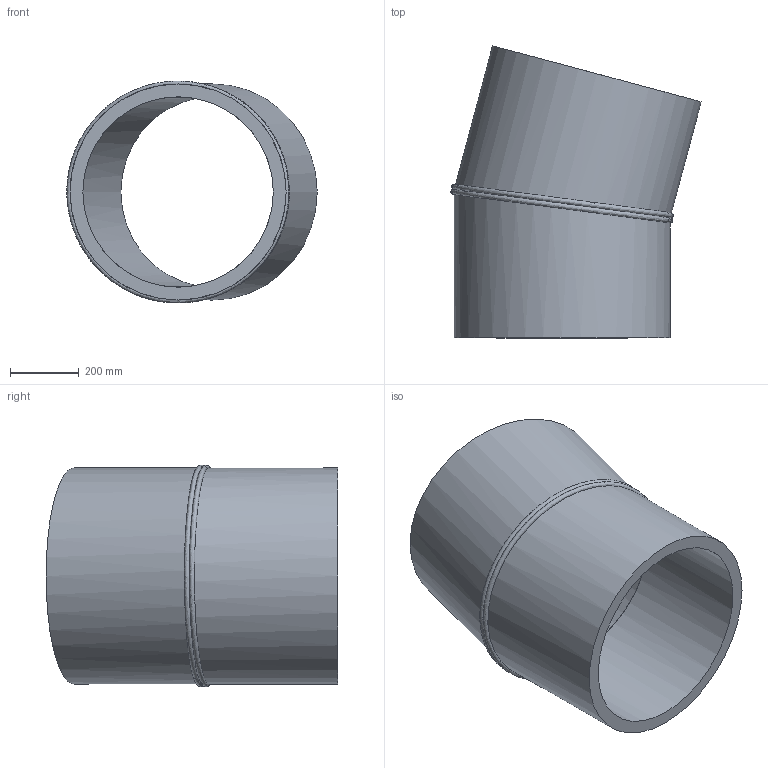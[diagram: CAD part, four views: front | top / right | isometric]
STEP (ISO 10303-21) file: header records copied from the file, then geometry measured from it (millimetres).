
FILE_DESCRIPTION(/* description */ ('Unknown'),/* implementation_level */ '2;1');
FILE_NAME(/* name */ 'Curva 15° a settore DE630 SDR17',/* time_stamp */ '2022-07-22T17:09:15+02:00',/* author */ ('Unknown'),/* organization */ ('Unknown'),/* preprocessor_version */ 'ST-DEVELOPER v18.102',/* originating_system */ 'Solid Edge',/* authorisation */ 'Unknown');
FILE_SCHEMA (('AUTOMOTIVE_DESIGN {1 0 10303 214 3 1 1}'));
Length unit declared in the file: millimetre
Products named in the file (2): Curva 15° a settore DE630 SDR17; Tubo x Gomito 15° DE630 SDR17
Assembly tree (2 placements, depth 2):
  Curva 15° a settore DE630 SDR17
    Tubo x Gomito 15° DE630 SDR17  x2
Bounding box: 730.01 x 851.13 x 646.93 mm (x, y, z)
Volume: 54926391.7 mm3; surface area: 3239207.2 mm2
Topology: 2 solids, 2 shells, 10 faces, 20 edges, 14 vertices
Faces by surface type: cylinder 4, plane 4, bspline 2
Full cylindrical faces by diameter (mm): 555.2 x2, 630 x2
Entity records: 1293 total; most frequent: CARTESIAN_POINT 1156, DIRECTION 20, ORIENTED_EDGE 10, EDGE_LOOP 10, FACE_BOUND 10, AXIS2_PLACEMENT_3D 10, EDGE_CURVE 5, VERTEX_POINT 5
